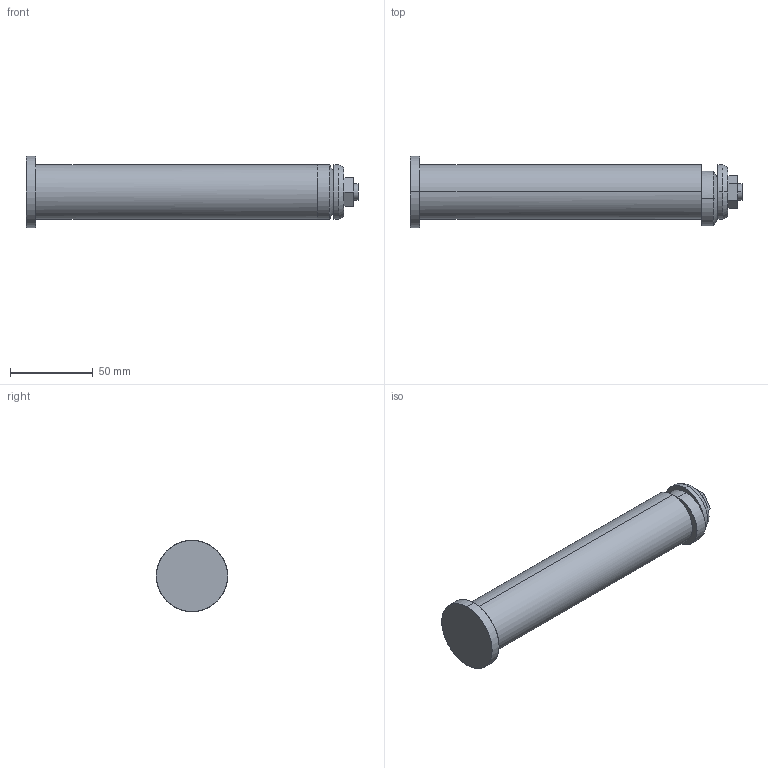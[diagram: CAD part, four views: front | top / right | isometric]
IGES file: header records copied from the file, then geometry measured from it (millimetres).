
Start section: START RECORD GO HERE.
Global section: file name: 395PSF-2.igs; native system: DASSAULT SYSTEMES CATIA V5 R20 - www.3ds.com; preprocessor: CATIA Version 5 Release 20 ; author: Utente; organization: NB04-ASUS; date: 20200409.225322; units: millimetre
Bounding box: 200.5 x 43 x 43 mm (x, y, z)
Surface area: 25735 mm2 (no closed solid volume)
Topology: 0 solids, 0 shells, 34 faces, 142 edges, 142 vertices
Faces by surface type: revolution 18, extrusion 16
